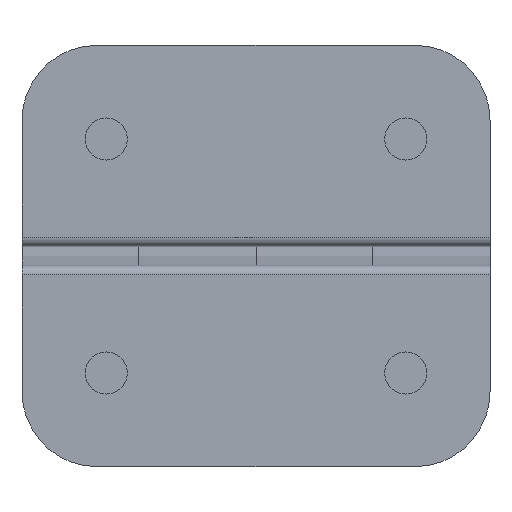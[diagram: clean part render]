
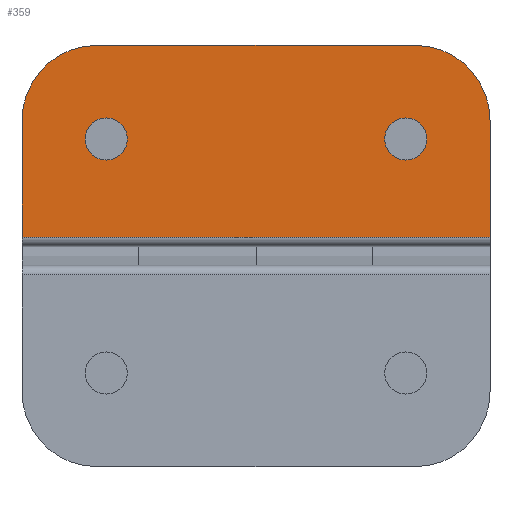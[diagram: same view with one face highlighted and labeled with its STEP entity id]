
A CAD part, front view. The second image highlights one B-rep face of the part: STEP entity #359.
In plain terms, the highlighted planar face has unit normal (0, -1, 0).
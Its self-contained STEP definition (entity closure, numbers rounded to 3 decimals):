
#55 = ORIENTED_EDGE ( 'NONE', *, *, #725, .F. ) ;
#108 = CARTESIAN_POINT ( 'NONE',  ( 20.5, 0., -25. ) ) ;
#181 = EDGE_LOOP ( 'NONE', ( #1349, #2314 ) ) ;
#202 = LINE ( 'NONE', #1172, #2166 ) ;
#203 = CARTESIAN_POINT ( 'NONE',  ( 8., 0., -25. ) ) ;
#321 = CARTESIAN_POINT ( 'NONE',  ( 0., 0., -17. ) ) ;
#359 = ADVANCED_FACE ( 'PLANAR_3', ( #1628, #2114, #2595 ), #1667, .F. ) ;
#388 = EDGE_CURVE ( 'NONE', #2121, #1675, #202, .T. ) ;
#418 = CARTESIAN_POINT ( 'NONE',  ( 0., 0., 25. ) ) ;
#431 = CIRCLE ( 'NONE', #2612, 2.25 ) ;
#461 = EDGE_LOOP ( 'NONE', ( #3102, #55 ) ) ;
#496 = EDGE_CURVE ( 'NONE', #1047, #1675, #973, .T. ) ;
#503 = DIRECTION ( 'NONE',  ( 0., 0., -1. ) ) ;
#536 = VECTOR ( 'NONE', #1946, 1000. ) ;
#549 = DIRECTION ( 'NONE',  ( 0., 0., -1. ) ) ;
#578 = AXIS2_PLACEMENT_3D ( 'NONE', #989, #2685, #503 ) ;
#580 = AXIS2_PLACEMENT_3D ( 'NONE', #1606, #2072, #1589 ) ;
#581 = DIRECTION ( 'NONE',  ( 0., 1., 0. ) ) ;
#592 = EDGE_CURVE ( 'NONE', #1079, #622, #2311, .T. ) ;
#622 = VERTEX_POINT ( 'NONE', #1830 ) ;
#671 = DIRECTION ( 'NONE',  ( 0., 1., 0. ) ) ;
#681 = CIRCLE ( 'NONE', #837, 8. ) ;
#686 = AXIS2_PLACEMENT_3D ( 'NONE', #785, #832, #549 ) ;
#725 = EDGE_CURVE ( 'NONE', #622, #1079, #2474, .T. ) ;
#785 = CARTESIAN_POINT ( 'NONE',  ( 10., 0., -16. ) ) ;
#832 = DIRECTION ( 'NONE',  ( 0., -1., 0. ) ) ;
#837 = AXIS2_PLACEMENT_3D ( 'NONE', #1039, #1059, #2455 ) ;
#852 = ORIENTED_EDGE ( 'NONE', *, *, #1515, .F. ) ;
#956 = DIRECTION ( 'NONE',  ( 0., 0., -1. ) ) ;
#969 = ORIENTED_EDGE ( 'NONE', *, *, #2537, .T. ) ;
#973 = LINE ( 'NONE', #1995, #536 ) ;
#974 = DIRECTION ( 'NONE',  ( 0., 0., 1. ) ) ;
#989 = CARTESIAN_POINT ( 'NONE',  ( 10., 0., -16. ) ) ;
#1013 = CARTESIAN_POINT ( 'NONE',  ( 8., 0., -17. ) ) ;
#1039 = CARTESIAN_POINT ( 'NONE',  ( 8., 0., 17. ) ) ;
#1047 = VERTEX_POINT ( 'NONE', #1764 ) ;
#1059 = DIRECTION ( 'NONE',  ( 0., 1., 0. ) ) ;
#1061 = VERTEX_POINT ( 'NONE', #321 ) ;
#1079 = VERTEX_POINT ( 'NONE', #1319 ) ;
#1092 = CIRCLE ( 'NONE', #2104, 8. ) ;
#1172 = CARTESIAN_POINT ( 'NONE',  ( 0., 0., -25. ) ) ;
#1319 = CARTESIAN_POINT ( 'NONE',  ( 10., 0., -18.25 ) ) ;
#1349 = ORIENTED_EDGE ( 'NONE', *, *, #2074, .T. ) ;
#1403 = CIRCLE ( 'NONE', #580, 2.25 ) ;
#1413 = EDGE_CURVE ( 'NONE', #2121, #1061, #1092, .T. ) ;
#1491 = DIRECTION ( 'NONE',  ( 1., 0., 0. ) ) ;
#1506 = DIRECTION ( 'NONE',  ( 0., 0., 1. ) ) ;
#1515 = EDGE_CURVE ( 'NONE', #1875, #1572, #681, .T. ) ;
#1546 = CARTESIAN_POINT ( 'NONE',  ( 0., 0., 25. ) ) ;
#1572 = VERTEX_POINT ( 'NONE', #2793 ) ;
#1589 = DIRECTION ( 'NONE',  ( 0., 0., 1. ) ) ;
#1605 = VECTOR ( 'NONE', #1491, 1000. ) ;
#1606 = CARTESIAN_POINT ( 'NONE',  ( 10., 0., 16. ) ) ;
#1626 = LINE ( 'NONE', #1930, #2221 ) ;
#1628 = FACE_OUTER_BOUND ( 'NONE', #2080, .T. ) ;
#1667 = PLANE ( 'NONE',  #1708 ) ;
#1675 = VERTEX_POINT ( 'NONE', #108 ) ;
#1708 = AXIS2_PLACEMENT_3D ( 'NONE', #418, #671, #2128 ) ;
#1764 = CARTESIAN_POINT ( 'NONE',  ( 20.5, 0., 25. ) ) ;
#1782 = VERTEX_POINT ( 'NONE', #2598 ) ;
#1830 = CARTESIAN_POINT ( 'NONE',  ( 10., 0., -13.75 ) ) ;
#1875 = VERTEX_POINT ( 'NONE', #2487 ) ;
#1930 = CARTESIAN_POINT ( 'NONE',  ( 0., 0., 25. ) ) ;
#1946 = DIRECTION ( 'NONE',  ( 0., 0., -1. ) ) ;
#1960 = EDGE_CURVE ( 'NONE', #1782, #2681, #1403, .T. ) ;
#1995 = CARTESIAN_POINT ( 'NONE',  ( 20.5, 0., 25. ) ) ;
#2072 = DIRECTION ( 'NONE',  ( 0., 1., 0. ) ) ;
#2074 = EDGE_CURVE ( 'NONE', #2681, #1782, #431, .T. ) ;
#2080 = EDGE_LOOP ( 'NONE', ( #2635, #2361, #2931, #852, #969, #2179 ) ) ;
#2104 = AXIS2_PLACEMENT_3D ( 'NONE', #1013, #2942, #1506 ) ;
#2114 = FACE_BOUND ( 'NONE', #181, .T. ) ;
#2121 = VERTEX_POINT ( 'NONE', #203 ) ;
#2128 = DIRECTION ( 'NONE',  ( 0., 0., 1. ) ) ;
#2166 = VECTOR ( 'NONE', #3054, 1000. ) ;
#2179 = ORIENTED_EDGE ( 'NONE', *, *, #1413, .F. ) ;
#2221 = VECTOR ( 'NONE', #956, 1000. ) ;
#2311 = CIRCLE ( 'NONE', #578, 2.25 ) ;
#2314 = ORIENTED_EDGE ( 'NONE', *, *, #1960, .T. ) ;
#2361 = ORIENTED_EDGE ( 'NONE', *, *, #496, .F. ) ;
#2455 = DIRECTION ( 'NONE',  ( 0., 0., 1. ) ) ;
#2474 = CIRCLE ( 'NONE', #686, 2.25 ) ;
#2485 = EDGE_CURVE ( 'NONE', #1572, #1047, #2802, .T. ) ;
#2487 = CARTESIAN_POINT ( 'NONE',  ( 0., 0., 17. ) ) ;
#2537 = EDGE_CURVE ( 'NONE', #1875, #1061, #1626, .T. ) ;
#2595 = FACE_BOUND ( 'NONE', #461, .T. ) ;
#2598 = CARTESIAN_POINT ( 'NONE',  ( 10., 0., 13.75 ) ) ;
#2612 = AXIS2_PLACEMENT_3D ( 'NONE', #2755, #581, #974 ) ;
#2635 = ORIENTED_EDGE ( 'NONE', *, *, #388, .T. ) ;
#2681 = VERTEX_POINT ( 'NONE', #2991 ) ;
#2685 = DIRECTION ( 'NONE',  ( 0., -1., 0. ) ) ;
#2755 = CARTESIAN_POINT ( 'NONE',  ( 10., 0., 16. ) ) ;
#2793 = CARTESIAN_POINT ( 'NONE',  ( 8., 0., 25. ) ) ;
#2802 = LINE ( 'NONE', #1546, #1605 ) ;
#2931 = ORIENTED_EDGE ( 'NONE', *, *, #2485, .F. ) ;
#2942 = DIRECTION ( 'NONE',  ( 0., 1., 0. ) ) ;
#2991 = CARTESIAN_POINT ( 'NONE',  ( 10., 0., 18.25 ) ) ;
#3054 = DIRECTION ( 'NONE',  ( 1., 0., 0. ) ) ;
#3102 = ORIENTED_EDGE ( 'NONE', *, *, #592, .F. ) ;
